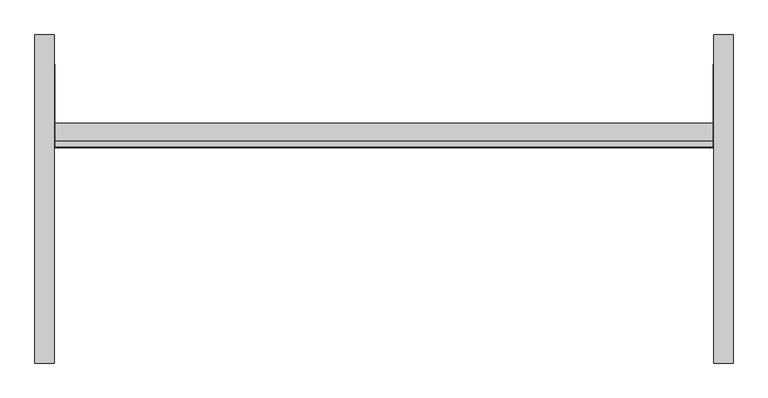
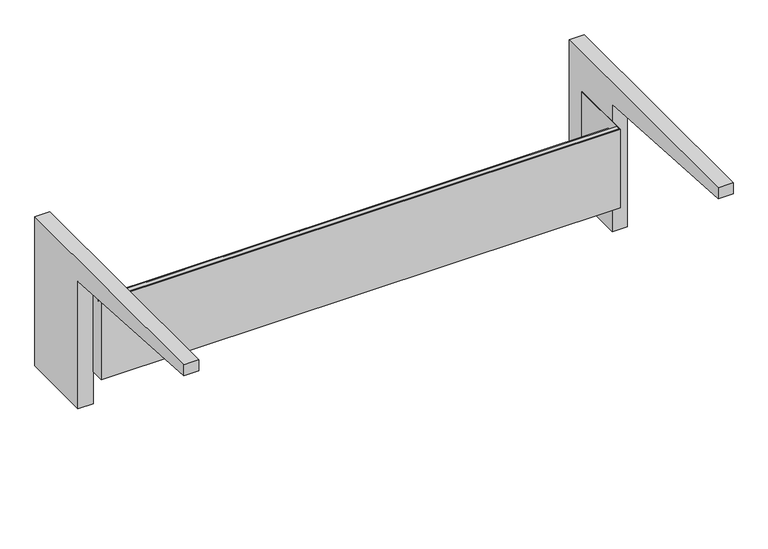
"""IFC4 building model written with IfcOpenShell, lengths in millimetres: furniture geometry."""

from ifc_helpers import new_model, si_unit, point, frame, frame_2d, origin, place, context, project, spatial, polyline, circle_curve, trimmed, segment, composite_curve, outline, extrude, source, transform, mapped, element, save


def furniture_b99f520c(model_context):
    return source(origin(), model_context, "Body", "SweptSolid", [
        extrude(outline(composite_curve([segment(polyline([(177.8, 850.9), (177.8, 501.65), (12.7, 501.65), (12.7, 800.1)]), True, "CONTINUOUS"), segment(trimmed(circle_curve(frame_2d((-388.143904, -2317.7524637)), 3143.5139289), [point((12.7, 800.1))], [point((-393.7, 825.756555))], True, "CARTESIAN"), True, "CONTINUOUS"), segment(polyline([(-393.7, 825.756555), (-393.7, 850.9), (177.8, 850.9)]), True, "CONTINUOUS")], self_intersect=False)), frame((574.675, 0.0, 0.0), z_axis=(1.0, 0.0, 0.0), x_axis=(0.0, 1.0, 0.0)), (0.0, 0.0, 1.0), 33.3375),
        extrude(outline(composite_curve([segment(polyline([(-393.7, 825.756555), (-393.7, 850.9), (177.8, 850.9), (177.8, 501.65), (12.7, 501.65), (12.7, 800.1)]), True, "CONTINUOUS"), segment(trimmed(circle_curve(frame_2d((-388.143904, -2317.7524637)), 3143.5139288), [point((12.7, 800.1))], [point((-393.7, 825.756555))], True, "CARTESIAN"), True, "CONTINUOUS")], self_intersect=False)), frame((-608.0125, 0.0, 0.0), z_axis=(1.0, 0.0, 0.0), x_axis=(0.0, 1.0, 0.0)), (0.0, 0.0, 1.0), 33.3375),
        extrude(outline(polyline([(-573.0875, -17.4625), (573.0875, -17.4625), (573.0875, 127.0), (574.675, 127.0), (574.675, -19.05), (-574.675, -19.05), (-574.675, 127.0), (-573.0875, 127.0), (-573.0875, -17.4625)])), frame((0.0, 0.0, 577.1896), z_axis=(0.0, 0.0, 1.0), x_axis=(1.0, 0.0, 0.0)), (0.0, 0.0, 1.0), 184.15),
        extrude(outline(polyline([(-7.9057553, 760.54585), (-17.4625, 760.54585), (-17.4625, 738.32085), (24.1300012, 738.32085), (24.1300012, 577.1896), (-19.05, 577.1896), (-19.05, 761.3396), (-7.1120053, 761.3396), (-7.1120053, 754.3291994), (-7.9057553, 754.3291994), (-7.9057553, 760.54585)])), frame((-574.675, 0.0, 0.0), z_axis=(1.0, 0.0, 0.0), x_axis=(0.0, 1.0, 0.0)), (0.0, 0.0, 1.0), 1149.35),
    ])


if __name__ == "__main__":
    model = new_model("IFC4")
    model_context = context("Model", 3, world=origin())
    ifc_project = project(units=[si_unit("LENGTHUNIT", "METRE", prefix="MILLI")], contexts=[model_context])
    site = spatial("IfcSite", under=ifc_project)
    building = spatial("IfcBuilding", under=site)
    placement = place(None, origin())
    furniture_shape = furniture_b99f520c(model_context)
    element("IfcFurniture", 1, ObjectType="HermanMiller_CoStruc_C2140W_WorkSurfaceSupport_ComponentAdaptor : 14\"H x 24\"D x 48\"W", at=placement, inside=building, context=model_context, shape_type="MappedRepresentation", body=[
        mapped(furniture_shape, transform((0.0, 0.0, 0.0), x_axis=(1.0, 0.0, 0.0), y_axis=(0.0, 1.0, 0.0), z_axis=(0.0, 0.0, 1.0))),
    ])
    save(model, "model.ifc")
